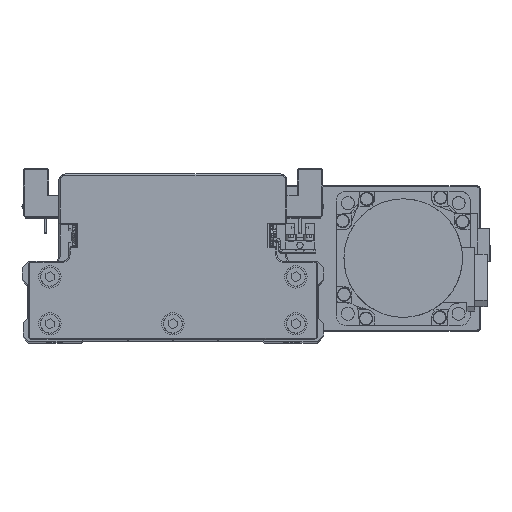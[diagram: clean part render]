
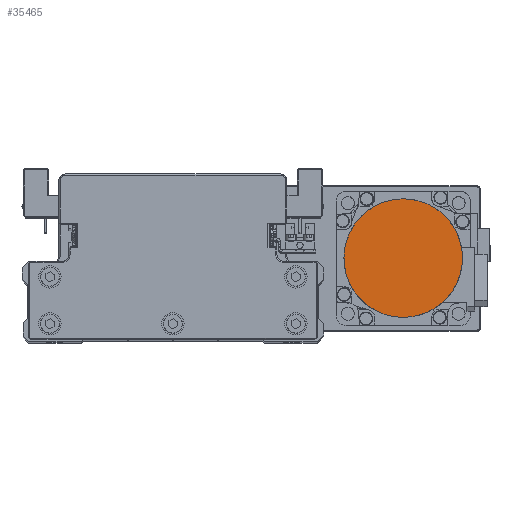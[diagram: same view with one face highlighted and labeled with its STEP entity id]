
A CAD part, top view. The second image highlights one B-rep face of the part: STEP entity #35465.
In plain terms, the highlighted planar face has unit normal (0, 0, 1) as drawn and (0, 0, -1) by its records, which use the part's own axes.
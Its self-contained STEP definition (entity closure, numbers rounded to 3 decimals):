
#842 = CARTESIAN_POINT ( 'NONE',  ( -26.5, 0., -109.7 ) ) ;
#1042 = CARTESIAN_POINT ( 'NONE',  ( -8.539, -25.147, -109.7 ) ) ;
#1245 = CARTESIAN_POINT ( 'NONE',  ( 21.07, -16.165, -109.7 ) ) ;
#1713 = CARTESIAN_POINT ( 'NONE',  ( 25.147, 8.539, -109.7 ) ) ;
#1927 = CARTESIAN_POINT ( 'NONE',  ( -1.734, 26.5, -109.7 ) ) ;
#2063 = B_SPLINE_CURVE_WITH_KNOTS ( 'NONE', 3,
 ( #32479, #4742, #17096, #29476, #1713, #14060, #26438, #38756, #11037, #23394, #35722, #7992, #20343, #32689, #4947, #17308, #29679, #1927, #14263, #26635, #38956, #11248, #23595, #35923, #8200, #20550, #32895, #5152, #17510, #29879, #2126, #14467, #26849, #39163 ),
 .UNSPECIFIED., .F., .F.,
 ( 4, 2, 2, 2, 2, 2, 2, 2, 2, 2, 2, 2, 2, 2, 2, 2, 4 ),
 ( 0., 0.062, 0.125, 0.187, 0.25, 0.312, 0.375, 0.437, 0.5, 0.562, 0.625, 0.687, 0.75, 0.813, 0.875, 0.938, 1. ),
 .UNSPECIFIED. ) ;
#2126 = CARTESIAN_POINT ( 'NONE',  ( -25.652, 6.871, -109.7 ) ) ;
#4076 = CARTESIAN_POINT ( 'NONE',  ( -16.165, -21.07, -109.7 ) ) ;
#4093 = CARTESIAN_POINT ( 'NONE',  ( 26.5, 0., -109.7 ) ) ;
#4274 = CARTESIAN_POINT ( 'NONE',  ( 16.165, -21.07, -109.7 ) ) ;
#4546 = DIRECTION ( 'NONE',  ( 0., 0., 1. ) ) ;
#4742 = CARTESIAN_POINT ( 'NONE',  ( 26.5, 1.734, -109.7 ) ) ;
#4947 = CARTESIAN_POINT ( 'NONE',  ( 6.871, 25.652, -109.7 ) ) ;
#5152 = CARTESIAN_POINT ( 'NONE',  ( -22.998, 13.28, -109.7 ) ) ;
#5949 = VERTEX_POINT ( 'NONE', #4093 ) ;
#7110 = CARTESIAN_POINT ( 'NONE',  ( -21.07, -16.165, -109.7 ) ) ;
#7309 = CARTESIAN_POINT ( 'NONE',  ( 8.539, -25.147, -109.7 ) ) ;
#7519 = CARTESIAN_POINT ( 'NONE',  ( 26.5, 0., -109.7 ) ) ;
#7588 = FACE_OUTER_BOUND ( 'NONE', #35317, .T. ) ;
#7992 = CARTESIAN_POINT ( 'NONE',  ( 13.28, 22.998, -109.7 ) ) ;
#8200 = CARTESIAN_POINT ( 'NONE',  ( -17.512, 19.965, -109.7 ) ) ;
#9093 = ORIENTED_EDGE ( 'NONE', *, *, #21238, .F. ) ;
#10157 = CARTESIAN_POINT ( 'NONE',  ( -25.147, -8.539, -109.7 ) ) ;
#10360 = CARTESIAN_POINT ( 'NONE',  ( 1.734, -26.5, -109.7 ) ) ;
#10556 = CARTESIAN_POINT ( 'NONE',  ( 25.652, -6.871, -109.7 ) ) ;
#11037 = CARTESIAN_POINT ( 'NONE',  ( 19.965, 17.512, -109.7 ) ) ;
#11248 = CARTESIAN_POINT ( 'NONE',  ( -11.744, 23.819, -109.7 ) ) ;
#11781 = EDGE_CURVE ( 'NONE', #26346, #5949, #15202, .T. ) ;
#12309 = AXIS2_PLACEMENT_3D ( 'NONE', #32290, #4546, #16896 ) ;
#13184 = CARTESIAN_POINT ( 'NONE',  ( -26.5, -1.734, -109.7 ) ) ;
#13382 = CARTESIAN_POINT ( 'NONE',  ( -6.871, -25.652, -109.7 ) ) ;
#13588 = CARTESIAN_POINT ( 'NONE',  ( 22.998, -13.28, -109.7 ) ) ;
#14060 = CARTESIAN_POINT ( 'NONE',  ( 23.819, 11.744, -109.7 ) ) ;
#14150 = ORIENTED_EDGE ( 'NONE', *, *, #11781, .F. ) ;
#14263 = CARTESIAN_POINT ( 'NONE',  ( -3.469, 26.329, -109.7 ) ) ;
#14467 = CARTESIAN_POINT ( 'NONE',  ( -26.329, 3.469, -109.7 ) ) ;
#15202 = B_SPLINE_CURVE_WITH_KNOTS ( 'NONE', 3,
 ( #842, #13184, #25549, #37870, #10157, #22513, #34842, #7110, #19460, #31808, #4076, #16427, #28799, #1042, #13382, #25759, #38073, #10360, #22706, #35041, #7309, #19662, #32010, #4274, #16621, #29003, #1245, #13588, #25949, #38266, #10556, #22909, #35239, #7519 ),
 .UNSPECIFIED., .F., .F.,
 ( 4, 2, 2, 2, 2, 2, 2, 2, 2, 2, 2, 2, 2, 2, 2, 2, 4 ),
 ( 0., 0.063, 0.125, 0.188, 0.25, 0.312, 0.375, 0.437, 0.5, 0.562, 0.625, 0.687, 0.75, 0.813, 0.875, 0.938, 1. ),
 .UNSPECIFIED. ) ;
#16427 = CARTESIAN_POINT ( 'NONE',  ( -13.28, -22.998, -109.7 ) ) ;
#16621 = CARTESIAN_POINT ( 'NONE',  ( 17.512, -19.965, -109.7 ) ) ;
#16896 = DIRECTION ( 'NONE',  ( 1., 0., 0. ) ) ;
#17096 = CARTESIAN_POINT ( 'NONE',  ( 26.329, 3.469, -109.7 ) ) ;
#17308 = CARTESIAN_POINT ( 'NONE',  ( 3.469, 26.329, -109.7 ) ) ;
#17510 = CARTESIAN_POINT ( 'NONE',  ( -23.819, 11.744, -109.7 ) ) ;
#19460 = CARTESIAN_POINT ( 'NONE',  ( -19.965, -17.512, -109.7 ) ) ;
#19662 = CARTESIAN_POINT ( 'NONE',  ( 11.744, -23.819, -109.7 ) ) ;
#19936 = PLANE ( 'NONE',  #12309 ) ;
#20343 = CARTESIAN_POINT ( 'NONE',  ( 11.744, 23.819, -109.7 ) ) ;
#20550 = CARTESIAN_POINT ( 'NONE',  ( -19.965, 17.512, -109.7 ) ) ;
#21238 = EDGE_CURVE ( 'NONE', #5949, #26346, #2063, .T. ) ;
#22513 = CARTESIAN_POINT ( 'NONE',  ( -23.819, -11.744, -109.7 ) ) ;
#22706 = CARTESIAN_POINT ( 'NONE',  ( 3.469, -26.329, -109.7 ) ) ;
#22909 = CARTESIAN_POINT ( 'NONE',  ( 26.329, -3.469, -109.7 ) ) ;
#23394 = CARTESIAN_POINT ( 'NONE',  ( 17.512, 19.965, -109.7 ) ) ;
#23595 = CARTESIAN_POINT ( 'NONE',  ( -13.28, 22.998, -109.7 ) ) ;
#25549 = CARTESIAN_POINT ( 'NONE',  ( -26.329, -3.469, -109.7 ) ) ;
#25759 = CARTESIAN_POINT ( 'NONE',  ( -3.469, -26.329, -109.7 ) ) ;
#25949 = CARTESIAN_POINT ( 'NONE',  ( 23.819, -11.744, -109.7 ) ) ;
#26346 = VERTEX_POINT ( 'NONE', #38560 ) ;
#26438 = CARTESIAN_POINT ( 'NONE',  ( 22.998, 13.28, -109.7 ) ) ;
#26635 = CARTESIAN_POINT ( 'NONE',  ( -6.871, 25.652, -109.7 ) ) ;
#26849 = CARTESIAN_POINT ( 'NONE',  ( -26.5, 1.734, -109.7 ) ) ;
#28799 = CARTESIAN_POINT ( 'NONE',  ( -11.744, -23.819, -109.7 ) ) ;
#29003 = CARTESIAN_POINT ( 'NONE',  ( 19.965, -17.512, -109.7 ) ) ;
#29476 = CARTESIAN_POINT ( 'NONE',  ( 25.652, 6.871, -109.7 ) ) ;
#29679 = CARTESIAN_POINT ( 'NONE',  ( 1.734, 26.5, -109.7 ) ) ;
#29879 = CARTESIAN_POINT ( 'NONE',  ( -25.147, 8.539, -109.7 ) ) ;
#31808 = CARTESIAN_POINT ( 'NONE',  ( -17.512, -19.965, -109.7 ) ) ;
#32010 = CARTESIAN_POINT ( 'NONE',  ( 13.28, -22.998, -109.7 ) ) ;
#32290 = CARTESIAN_POINT ( 'NONE',  ( 0., 0., -109.7 ) ) ;
#32479 = CARTESIAN_POINT ( 'NONE',  ( 26.5, 0., -109.7 ) ) ;
#32689 = CARTESIAN_POINT ( 'NONE',  ( 8.539, 25.147, -109.7 ) ) ;
#32895 = CARTESIAN_POINT ( 'NONE',  ( -21.07, 16.165, -109.7 ) ) ;
#34842 = CARTESIAN_POINT ( 'NONE',  ( -22.998, -13.28, -109.7 ) ) ;
#35041 = CARTESIAN_POINT ( 'NONE',  ( 6.871, -25.652, -109.7 ) ) ;
#35239 = CARTESIAN_POINT ( 'NONE',  ( 26.5, -1.734, -109.7 ) ) ;
#35317 = EDGE_LOOP ( 'NONE', ( #9093, #14150 ) ) ;
#35465 = ADVANCED_FACE ( 'NONE', ( #7588 ), #19936, .F. ) ;
#35722 = CARTESIAN_POINT ( 'NONE',  ( 16.165, 21.07, -109.7 ) ) ;
#35923 = CARTESIAN_POINT ( 'NONE',  ( -16.165, 21.07, -109.7 ) ) ;
#37870 = CARTESIAN_POINT ( 'NONE',  ( -25.652, -6.871, -109.7 ) ) ;
#38073 = CARTESIAN_POINT ( 'NONE',  ( -1.734, -26.5, -109.7 ) ) ;
#38266 = CARTESIAN_POINT ( 'NONE',  ( 25.147, -8.539, -109.7 ) ) ;
#38560 = CARTESIAN_POINT ( 'NONE',  ( -26.5, 0., -109.7 ) ) ;
#38756 = CARTESIAN_POINT ( 'NONE',  ( 21.07, 16.165, -109.7 ) ) ;
#38956 = CARTESIAN_POINT ( 'NONE',  ( -8.539, 25.147, -109.7 ) ) ;
#39163 = CARTESIAN_POINT ( 'NONE',  ( -26.5, 0., -109.7 ) ) ;
